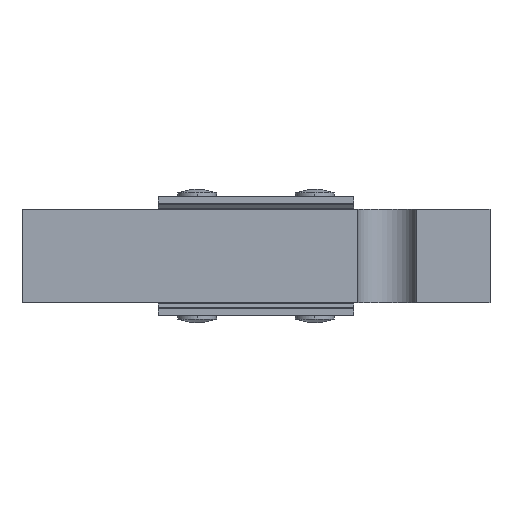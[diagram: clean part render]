
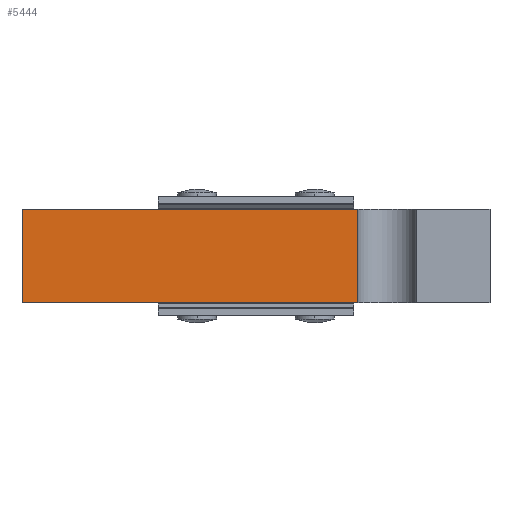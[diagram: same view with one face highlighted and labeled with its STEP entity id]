
A CAD part, left-side view. The second image highlights one B-rep face of the part: STEP entity #5444.
In plain terms, the highlighted planar face has unit normal (-1, 0, 0).
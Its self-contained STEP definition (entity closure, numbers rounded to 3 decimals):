
#98 = CARTESIAN_POINT ( 'NONE',  ( -25.4, 31.75, 6.35 ) ) ;
#425 = ORIENTED_EDGE ( 'NONE', *, *, #6011, .F. ) ;
#674 = CARTESIAN_POINT ( 'NONE',  ( -25.4, -13.75, 6.35 ) ) ;
#811 = DIRECTION ( 'NONE',  ( 0., 0., -1. ) ) ;
#1210 = ORIENTED_EDGE ( 'NONE', *, *, #7849, .T. ) ;
#1350 = LINE ( 'NONE', #2864, #9505 ) ;
#1372 = DIRECTION ( 'NONE',  ( 1., 0., 0. ) ) ;
#1450 = CARTESIAN_POINT ( 'NONE',  ( -25.4, 31.75, -6.35 ) ) ;
#1515 = AXIS2_PLACEMENT_3D ( 'NONE', #8884, #1372, #4984 ) ;
#2151 = VECTOR ( 'NONE', #9070, 1000. ) ;
#2226 = DIRECTION ( 'NONE',  ( 0., 0., -1. ) ) ;
#2864 = CARTESIAN_POINT ( 'NONE',  ( -25.4, -13.75, 6.35 ) ) ;
#3096 = VERTEX_POINT ( 'NONE', #5953 ) ;
#3647 = CARTESIAN_POINT ( 'NONE',  ( -25.4, -13.75, -6.35 ) ) ;
#3651 = ORIENTED_EDGE ( 'NONE', *, *, #5847, .T. ) ;
#4419 = DIRECTION ( 'NONE',  ( 0., -1., 0. ) ) ;
#4604 = CARTESIAN_POINT ( 'NONE',  ( -25.4, 31.75, 6.35 ) ) ;
#4984 = DIRECTION ( 'NONE',  ( 0., 1., 0. ) ) ;
#5444 = ADVANCED_FACE ( 'NONE', ( #7227 ), #8789, .F. ) ;
#5776 = EDGE_CURVE ( 'NONE', #8772, #7974, #6773, .T. ) ;
#5837 = VERTEX_POINT ( 'NONE', #3647 ) ;
#5847 = EDGE_CURVE ( 'NONE', #3096, #5837, #8128, .T. ) ;
#5953 = CARTESIAN_POINT ( 'NONE',  ( -25.4, 31.75, -6.35 ) ) ;
#6011 = EDGE_CURVE ( 'NONE', #7974, #5837, #1350, .T. ) ;
#6773 = LINE ( 'NONE', #98, #2151 ) ;
#7179 = CARTESIAN_POINT ( 'NONE',  ( -25.4, 31.75, 6.35 ) ) ;
#7227 = FACE_OUTER_BOUND ( 'NONE', #7312, .T. ) ;
#7312 = EDGE_LOOP ( 'NONE', ( #3651, #425, #8649, #1210 ) ) ;
#7849 = EDGE_CURVE ( 'NONE', #8772, #3096, #8218, .T. ) ;
#7974 = VERTEX_POINT ( 'NONE', #674 ) ;
#8128 = LINE ( 'NONE', #1450, #8241 ) ;
#8218 = LINE ( 'NONE', #4604, #8599 ) ;
#8241 = VECTOR ( 'NONE', #4419, 1000. ) ;
#8599 = VECTOR ( 'NONE', #811, 1000. ) ;
#8649 = ORIENTED_EDGE ( 'NONE', *, *, #5776, .F. ) ;
#8772 = VERTEX_POINT ( 'NONE', #7179 ) ;
#8789 = PLANE ( 'NONE',  #1515 ) ;
#8884 = CARTESIAN_POINT ( 'NONE',  ( -25.4, 31.75, 6.35 ) ) ;
#9070 = DIRECTION ( 'NONE',  ( 0., -1., 0. ) ) ;
#9505 = VECTOR ( 'NONE', #2226, 1000. ) ;
